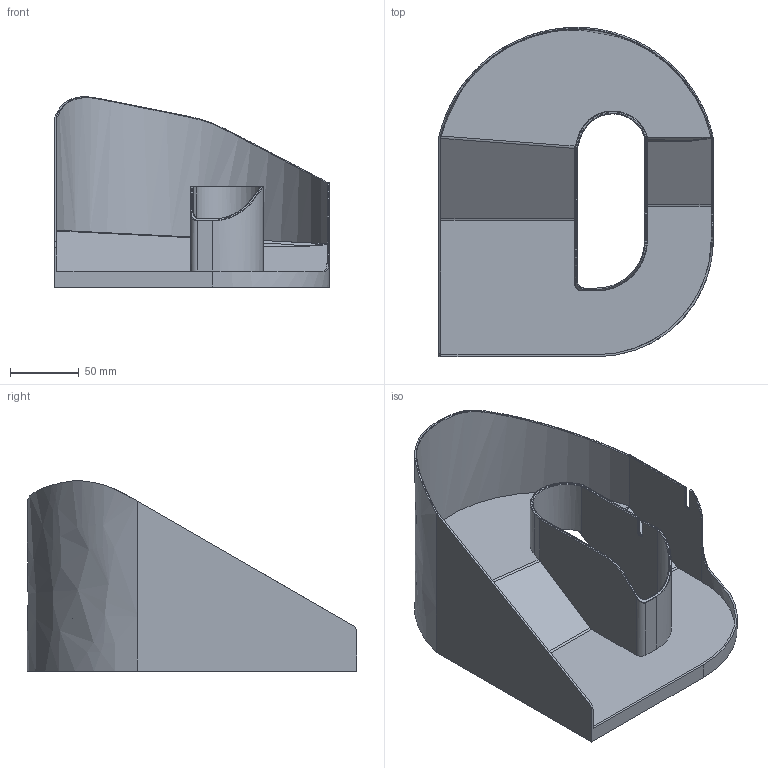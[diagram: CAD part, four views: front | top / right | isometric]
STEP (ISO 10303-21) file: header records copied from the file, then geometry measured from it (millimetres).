
FILE_DESCRIPTION(/* description */ ('STEP AP242','CAx-IF Rec.Pracs.---Representation and Presentation of Product Manufacturing Information (PMI)---4.0---2014-10-13','CAx-IF Rec.Pracs.---3D Tessellated Geometry---0.4---2014-09-14','2;1','CAx-IF Rec.Pracs.---User Defined Attributes---1.5---2016-08-15'),/* implementation_level */ '2;1');
FILE_NAME(/* name */ '69133fdb89ea7250a0fac9a9',/* time_stamp */ '2025-11-11T13:53:33Z',/* author */ (''),/* organization */ (''),/* preprocessor_version */ 'ST-DEVELOPER v20',/* originating_system */ 'ONSHAPE BY PTC INC, 1.206',/* authorisation */ ' ');
FILE_SCHEMA (('AP242_MANAGED_MODEL_BASED_3D_ENGINEERING_MIM_LF { 1 0 10303 442 1 1 4 }'));
Length unit declared in the file: metre
Products named in the file (2): Part 1; Part 2
Bounding box: 200.07 x 240 x 138.65 mm (x, y, z)
Volume: 170951.9 mm3; surface area: 215886 mm2
Topology: 2 solids, 2 shells, 149 faces, 387 edges, 241 vertices
Faces by surface type: cylinder 59, plane 52, bspline 20, torus 18
Entity records: 5348 total; most frequent: CARTESIAN_POINT 1754, ORIENTED_EDGE 774, DIRECTION 716, EDGE_CURVE 387, AXIS2_PLACEMENT_3D 261, VERTEX_POINT 241, LINE 194, VECTOR 194
